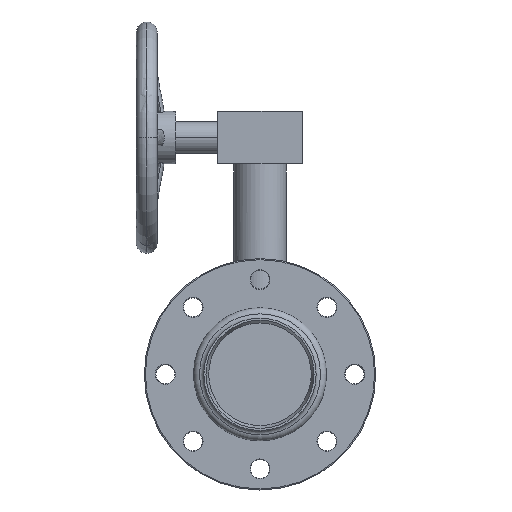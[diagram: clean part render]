
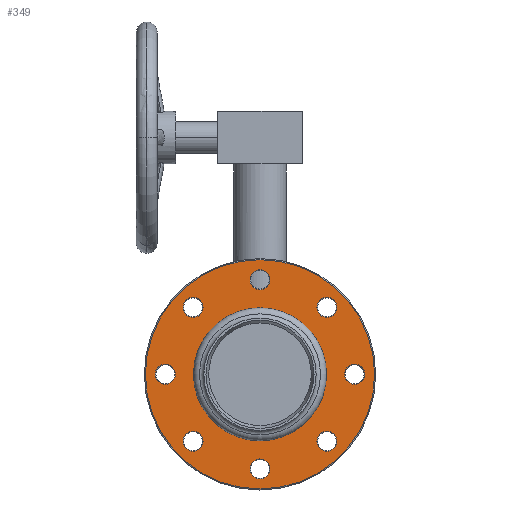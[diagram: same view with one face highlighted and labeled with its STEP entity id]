
A CAD part, front view. The second image highlights one B-rep face of the part: STEP entity #349.
In plain terms, the highlighted planar face has unit normal (0, -1, 0).
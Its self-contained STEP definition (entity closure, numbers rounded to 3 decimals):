
#215=PLANE('',#2494);
#349=ADVANCED_FACE('',(#833,#834,#835,#836,#837,#838,#839,#840,#841,#842),
#215,.T.);
#615=CIRCLE('',#2483,50.8);
#616=CIRCLE('',#2485,9.5);
#617=CIRCLE('',#2486,9.5);
#618=CIRCLE('',#2487,9.5);
#619=CIRCLE('',#2488,9.5);
#620=CIRCLE('',#2489,9.5);
#621=CIRCLE('',#2490,9.5);
#622=CIRCLE('',#2491,9.5);
#623=CIRCLE('',#2492,9.5);
#624=CIRCLE('',#2493,109.);
#833=FACE_BOUND('',#1137,.T.);
#834=FACE_BOUND('',#1138,.T.);
#835=FACE_BOUND('',#1139,.T.);
#836=FACE_BOUND('',#1140,.T.);
#837=FACE_BOUND('',#1141,.T.);
#838=FACE_BOUND('',#1142,.T.);
#839=FACE_BOUND('',#1143,.T.);
#840=FACE_BOUND('',#1144,.T.);
#841=FACE_BOUND('',#1145,.T.);
#842=FACE_BOUND('',#1146,.T.);
#1137=EDGE_LOOP('',(#1637));
#1138=EDGE_LOOP('',(#1638));
#1139=EDGE_LOOP('',(#1639));
#1140=EDGE_LOOP('',(#1640));
#1141=EDGE_LOOP('',(#1641));
#1142=EDGE_LOOP('',(#1642));
#1143=EDGE_LOOP('',(#1643));
#1144=EDGE_LOOP('',(#1644));
#1145=EDGE_LOOP('',(#1645));
#1146=EDGE_LOOP('',(#1646));
#1637=ORIENTED_EDGE('',*,*,#2162,.T.);
#1638=ORIENTED_EDGE('',*,*,#2163,.T.);
#1639=ORIENTED_EDGE('',*,*,#2164,.T.);
#1640=ORIENTED_EDGE('',*,*,#2165,.T.);
#1641=ORIENTED_EDGE('',*,*,#2166,.T.);
#1642=ORIENTED_EDGE('',*,*,#2167,.T.);
#1643=ORIENTED_EDGE('',*,*,#2168,.T.);
#1644=ORIENTED_EDGE('',*,*,#2169,.T.);
#1645=ORIENTED_EDGE('',*,*,#2170,.T.);
#1646=ORIENTED_EDGE('',*,*,#2161,.F.);
#1911=VERTEX_POINT('',#4071);
#1912=VERTEX_POINT('',#4074);
#1913=VERTEX_POINT('',#4076);
#1914=VERTEX_POINT('',#4078);
#1915=VERTEX_POINT('',#4080);
#1916=VERTEX_POINT('',#4082);
#1917=VERTEX_POINT('',#4084);
#1918=VERTEX_POINT('',#4086);
#1919=VERTEX_POINT('',#4088);
#1920=VERTEX_POINT('',#4090);
#2161=EDGE_CURVE('',#1911,#1911,#615,.T.);
#2162=EDGE_CURVE('',#1912,#1912,#616,.T.);
#2163=EDGE_CURVE('',#1913,#1913,#617,.T.);
#2164=EDGE_CURVE('',#1914,#1914,#618,.T.);
#2165=EDGE_CURVE('',#1915,#1915,#619,.T.);
#2166=EDGE_CURVE('',#1916,#1916,#620,.T.);
#2167=EDGE_CURVE('',#1917,#1917,#621,.T.);
#2168=EDGE_CURVE('',#1918,#1918,#622,.T.);
#2169=EDGE_CURVE('',#1919,#1919,#623,.T.);
#2170=EDGE_CURVE('',#1920,#1920,#624,.T.);
#2483=AXIS2_PLACEMENT_3D('',#4070,#3056,#3057);
#2485=AXIS2_PLACEMENT_3D('',#4073,#3060,#3061);
#2486=AXIS2_PLACEMENT_3D('',#4075,#3062,#3063);
#2487=AXIS2_PLACEMENT_3D('',#4077,#3064,#3065);
#2488=AXIS2_PLACEMENT_3D('',#4079,#3066,#3067);
#2489=AXIS2_PLACEMENT_3D('',#4081,#3068,#3069);
#2490=AXIS2_PLACEMENT_3D('',#4083,#3070,#3071);
#2491=AXIS2_PLACEMENT_3D('',#4085,#3072,#3073);
#2492=AXIS2_PLACEMENT_3D('',#4087,#3074,#3075);
#2493=AXIS2_PLACEMENT_3D('',#4089,#3076,#3077);
#2494=AXIS2_PLACEMENT_3D('',#4091,#3078,#3079);
#3056=DIRECTION('',(0.,-1.,0.));
#3057=DIRECTION('',(0.,0.,-1.));
#3060=DIRECTION('',(0.,1.,0.));
#3061=DIRECTION('',(0.,0.,-1.));
#3062=DIRECTION('',(0.,1.,0.));
#3063=DIRECTION('',(0.,0.,-1.));
#3064=DIRECTION('',(0.,1.,0.));
#3065=DIRECTION('',(0.,0.,-1.));
#3066=DIRECTION('',(0.,1.,0.));
#3067=DIRECTION('',(0.,0.,-1.));
#3068=DIRECTION('',(0.,1.,0.));
#3069=DIRECTION('',(0.,0.,-1.));
#3070=DIRECTION('',(0.,1.,0.));
#3071=DIRECTION('',(0.,0.,-1.));
#3072=DIRECTION('',(0.,1.,0.));
#3073=DIRECTION('',(0.,0.,-1.));
#3074=DIRECTION('',(0.,1.,0.));
#3075=DIRECTION('',(0.,0.,-1.));
#3076=DIRECTION('',(0.,-1.,0.));
#3077=DIRECTION('',(0.,0.,-1.));
#3078=DIRECTION('',(0.,-1.,0.));
#3079=DIRECTION('',(0.,0.,-1.));
#4070=CARTESIAN_POINT('',(0.,-61.027,0.));
#4071=CARTESIAN_POINT('',(0.,-61.027,-50.8));
#4073=CARTESIAN_POINT('',(63.64,-61.027,63.64));
#4074=CARTESIAN_POINT('',(63.64,-61.027,54.14));
#4075=CARTESIAN_POINT('',(0.,-61.027,90.));
#4076=CARTESIAN_POINT('',(0.,-61.027,80.5));
#4077=CARTESIAN_POINT('',(90.,-61.027,0.));
#4078=CARTESIAN_POINT('',(90.,-61.027,-9.5));
#4079=CARTESIAN_POINT('',(63.64,-61.027,-63.64));
#4080=CARTESIAN_POINT('',(63.64,-61.027,-73.14));
#4081=CARTESIAN_POINT('',(-63.64,-61.027,-63.64));
#4082=CARTESIAN_POINT('',(-63.64,-61.027,-73.14));
#4083=CARTESIAN_POINT('',(0.,-61.027,-90.));
#4084=CARTESIAN_POINT('',(0.,-61.027,-99.5));
#4085=CARTESIAN_POINT('',(-90.,-61.027,0.));
#4086=CARTESIAN_POINT('',(-90.,-61.027,-9.5));
#4087=CARTESIAN_POINT('',(-63.64,-61.027,63.64));
#4088=CARTESIAN_POINT('',(-63.64,-61.027,54.14));
#4089=CARTESIAN_POINT('',(0.,-61.027,0.));
#4090=CARTESIAN_POINT('',(0.,-61.027,-109.));
#4091=CARTESIAN_POINT('',(50.8,-61.027,0.));
